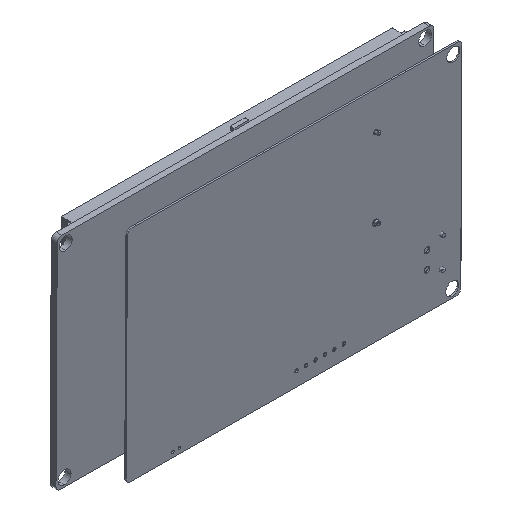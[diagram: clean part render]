
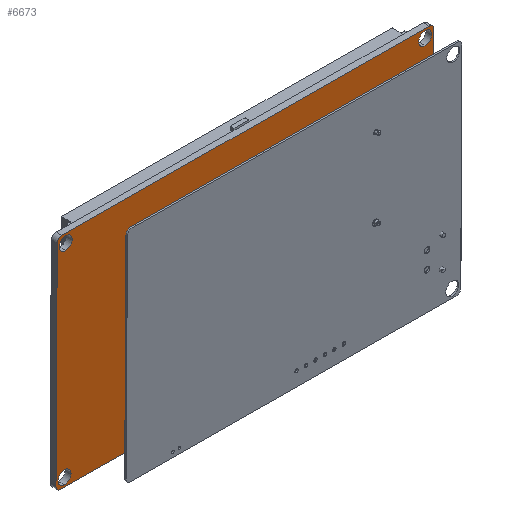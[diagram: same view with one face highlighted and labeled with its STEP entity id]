
A CAD part, isometric view. The second image highlights one B-rep face of the part: STEP entity #6673.
In plain terms, the highlighted planar face has unit normal (0, -1, 0).
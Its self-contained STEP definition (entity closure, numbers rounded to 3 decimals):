
#177 = EDGE_CURVE ( 'NONE', #3740, #25620, #25406, .T. ) ;
#387 = VERTEX_POINT ( 'NONE', #6025 ) ;
#539 = DIRECTION ( 'NONE',  ( 1., 0., 0. ) ) ;
#587 = CIRCLE ( 'NONE', #13420, 1.75 ) ;
#846 = AXIS2_PLACEMENT_3D ( 'NONE', #12586, #22186, #34275 ) ;
#912 = EDGE_CURVE ( 'NONE', #27208, #2366, #38594, .T. ) ;
#2313 = VECTOR ( 'NONE', #539, 1000. ) ;
#2366 = VERTEX_POINT ( 'NONE', #2836 ) ;
#2378 = FACE_BOUND ( 'NONE', #7326, .T. ) ;
#2589 = CARTESIAN_POINT ( 'NONE',  ( 48.35, 0., -28.95 ) ) ;
#2757 = VECTOR ( 'NONE', #18310, 1000. ) ;
#2836 = CARTESIAN_POINT ( 'NONE',  ( 49.38, 0., 29.5 ) ) ;
#3345 = CIRCLE ( 'NONE', #17993, 1.75 ) ;
#3418 = ORIENTED_EDGE ( 'NONE', *, *, #6090, .F. ) ;
#3587 = CARTESIAN_POINT ( 'NONE',  ( -48.35, 0., 28.95 ) ) ;
#3740 = VERTEX_POINT ( 'NONE', #8321 ) ;
#3858 = DIRECTION ( 'NONE',  ( 0., 0., 1. ) ) ;
#4015 = AXIS2_PLACEMENT_3D ( 'NONE', #10816, #34372, #37442 ) ;
#4203 = CARTESIAN_POINT ( 'NONE',  ( -49.38, 0., -29.5 ) ) ;
#4279 = VERTEX_POINT ( 'NONE', #22017 ) ;
#4298 = FACE_BOUND ( 'NONE', #8330, .T. ) ;
#4959 = CARTESIAN_POINT ( 'NONE',  ( 48.35, 0., 27.2 ) ) ;
#5117 = ORIENTED_EDGE ( 'NONE', *, *, #38642, .T. ) ;
#5269 = EDGE_CURVE ( 'NONE', #2366, #4279, #7328, .T. ) ;
#5333 = DIRECTION ( 'NONE',  ( 0., -1., 0. ) ) ;
#6025 = CARTESIAN_POINT ( 'NONE',  ( -48.35, 0., -25.45 ) ) ;
#6090 = EDGE_CURVE ( 'NONE', #19258, #387, #9236, .T. ) ;
#6213 = ORIENTED_EDGE ( 'NONE', *, *, #26890, .T. ) ;
#6673 = ADVANCED_FACE ( 'NONE', ( #17278, #15361, #2378, #28196, #4298 ), #24340, .F. ) ;
#7023 = CARTESIAN_POINT ( 'NONE',  ( -48.35, 0., -27.2 ) ) ;
#7326 = EDGE_LOOP ( 'NONE', ( #8565, #34831 ) ) ;
#7328 = CIRCLE ( 'NONE', #846, 1.27 ) ;
#7694 = LINE ( 'NONE', #25322, #2313 ) ;
#7952 = DIRECTION ( 'NONE',  ( 0., 0., 1. ) ) ;
#8321 = CARTESIAN_POINT ( 'NONE',  ( 48.35, 0., 28.95 ) ) ;
#8330 = EDGE_LOOP ( 'NONE', ( #3418, #9829 ) ) ;
#8565 = ORIENTED_EDGE ( 'NONE', *, *, #10360, .F. ) ;
#8590 = LINE ( 'NONE', #33461, #14807 ) ;
#8820 = DIRECTION ( 'NONE',  ( 0., 1., 0. ) ) ;
#8850 = VERTEX_POINT ( 'NONE', #4203 ) ;
#8868 = VERTEX_POINT ( 'NONE', #19345 ) ;
#9236 = CIRCLE ( 'NONE', #15017, 1.75 ) ;
#9829 = ORIENTED_EDGE ( 'NONE', *, *, #25616, .F. ) ;
#10092 = EDGE_CURVE ( 'NONE', #8850, #19822, #7694, .T. ) ;
#10318 = DIRECTION ( 'NONE',  ( 0., 0., 1. ) ) ;
#10322 = CIRCLE ( 'NONE', #28687, 1.27 ) ;
#10360 = EDGE_CURVE ( 'NONE', #25620, #3740, #18284, .T. ) ;
#10648 = VERTEX_POINT ( 'NONE', #3587 ) ;
#10816 = CARTESIAN_POINT ( 'NONE',  ( 48.35, 0., -27.2 ) ) ;
#10847 = LINE ( 'NONE', #35575, #34168 ) ;
#11132 = EDGE_LOOP ( 'NONE', ( #36311, #5117 ) ) ;
#11409 = VERTEX_POINT ( 'NONE', #37590 ) ;
#12258 = AXIS2_PLACEMENT_3D ( 'NONE', #30324, #18203, #15264 ) ;
#12311 = DIRECTION ( 'NONE',  ( 0., 0., 1. ) ) ;
#12586 = CARTESIAN_POINT ( 'NONE',  ( 49.38, 0., 28.23 ) ) ;
#12683 = DIRECTION ( 'NONE',  ( 0., 1., 0. ) ) ;
#13206 = AXIS2_PLACEMENT_3D ( 'NONE', #29566, #29428, #7952 ) ;
#13243 = CARTESIAN_POINT ( 'NONE',  ( 48.35, 0., -27.2 ) ) ;
#13420 = AXIS2_PLACEMENT_3D ( 'NONE', #17138, #19676, #19807 ) ;
#14385 = EDGE_CURVE ( 'NONE', #19822, #35917, #18759, .T. ) ;
#14807 = VECTOR ( 'NONE', #12311, 1000. ) ;
#15017 = AXIS2_PLACEMENT_3D ( 'NONE', #7023, #28112, #22140 ) ;
#15264 = DIRECTION ( 'NONE',  ( 0., 0., 1. ) ) ;
#15361 = FACE_BOUND ( 'NONE', #11132, .T. ) ;
#15904 = EDGE_CURVE ( 'NONE', #10648, #23073, #32427, .T. ) ;
#15920 = DIRECTION ( 'NONE',  ( 0., 1., 0. ) ) ;
#16053 = EDGE_CURVE ( 'NONE', #11409, #27208, #19531, .T. ) ;
#16485 = ORIENTED_EDGE ( 'NONE', *, *, #912, .F. ) ;
#17138 = CARTESIAN_POINT ( 'NONE',  ( -48.35, 0., 27.2 ) ) ;
#17278 = FACE_OUTER_BOUND ( 'NONE', #39325, .T. ) ;
#17363 = ORIENTED_EDGE ( 'NONE', *, *, #15904, .T. ) ;
#17951 = EDGE_CURVE ( 'NONE', #23073, #10648, #587, .T. ) ;
#17993 = AXIS2_PLACEMENT_3D ( 'NONE', #13243, #15920, #10318 ) ;
#18053 = CARTESIAN_POINT ( 'NONE',  ( 48.35, 0., 25.45 ) ) ;
#18203 = DIRECTION ( 'NONE',  ( 0., -1., 0. ) ) ;
#18284 = CIRCLE ( 'NONE', #22199, 1.75 ) ;
#18310 = DIRECTION ( 'NONE',  ( 1., 0., 0. ) ) ;
#18759 = CIRCLE ( 'NONE', #12258, 1.27 ) ;
#19258 = VERTEX_POINT ( 'NONE', #26872 ) ;
#19323 = CARTESIAN_POINT ( 'NONE',  ( -50.65, 0., -28.23 ) ) ;
#19345 = CARTESIAN_POINT ( 'NONE',  ( 48.35, 0., -25.45 ) ) ;
#19531 = CIRCLE ( 'NONE', #20482, 1.27 ) ;
#19676 = DIRECTION ( 'NONE',  ( 0., 1., 0. ) ) ;
#19807 = DIRECTION ( 'NONE',  ( 0., 0., 1. ) ) ;
#19822 = VERTEX_POINT ( 'NONE', #32144 ) ;
#20059 = CIRCLE ( 'NONE', #4015, 1.75 ) ;
#20482 = AXIS2_PLACEMENT_3D ( 'NONE', #37164, #12683, #30795 ) ;
#21105 = CARTESIAN_POINT ( 'NONE',  ( 0., 0., 0. ) ) ;
#21259 = EDGE_CURVE ( 'NONE', #35598, #11409, #10847, .T. ) ;
#21441 = AXIS2_PLACEMENT_3D ( 'NONE', #26627, #5333, #33340 ) ;
#22017 = CARTESIAN_POINT ( 'NONE',  ( 50.65, 0., 28.23 ) ) ;
#22140 = DIRECTION ( 'NONE',  ( 0., 0., 1. ) ) ;
#22186 = DIRECTION ( 'NONE',  ( 0., 1., 0. ) ) ;
#22199 = AXIS2_PLACEMENT_3D ( 'NONE', #4959, #26246, #26792 ) ;
#22250 = CIRCLE ( 'NONE', #21441, 1.75 ) ;
#22442 = AXIS2_PLACEMENT_3D ( 'NONE', #21105, #30565, #24597 ) ;
#23073 = VERTEX_POINT ( 'NONE', #36815 ) ;
#23113 = EDGE_CURVE ( 'NONE', #26061, #8868, #3345, .T. ) ;
#23653 = ORIENTED_EDGE ( 'NONE', *, *, #16053, .F. ) ;
#24069 = ORIENTED_EDGE ( 'NONE', *, *, #28145, .F. ) ;
#24340 = PLANE ( 'NONE',  #22442 ) ;
#24445 = CARTESIAN_POINT ( 'NONE',  ( 0., 0., 29.5 ) ) ;
#24597 = DIRECTION ( 'NONE',  ( 0., 0., 1. ) ) ;
#25322 = CARTESIAN_POINT ( 'NONE',  ( 0., 0., -29.5 ) ) ;
#25406 = CIRCLE ( 'NONE', #13206, 1.75 ) ;
#25616 = EDGE_CURVE ( 'NONE', #387, #19258, #22250, .T. ) ;
#25620 = VERTEX_POINT ( 'NONE', #18053 ) ;
#26061 = VERTEX_POINT ( 'NONE', #2589 ) ;
#26246 = DIRECTION ( 'NONE',  ( 0., -1., 0. ) ) ;
#26343 = ORIENTED_EDGE ( 'NONE', *, *, #21259, .F. ) ;
#26627 = CARTESIAN_POINT ( 'NONE',  ( -48.35, 0., -27.2 ) ) ;
#26792 = DIRECTION ( 'NONE',  ( 0., 0., 1. ) ) ;
#26872 = CARTESIAN_POINT ( 'NONE',  ( -48.35, 0., -28.95 ) ) ;
#26890 = EDGE_CURVE ( 'NONE', #35917, #4279, #8590, .T. ) ;
#27208 = VERTEX_POINT ( 'NONE', #38109 ) ;
#27502 = ORIENTED_EDGE ( 'NONE', *, *, #17951, .T. ) ;
#28062 = CARTESIAN_POINT ( 'NONE',  ( -49.38, 0., -28.23 ) ) ;
#28112 = DIRECTION ( 'NONE',  ( 0., -1., 0. ) ) ;
#28145 = EDGE_CURVE ( 'NONE', #8850, #35598, #10322, .T. ) ;
#28196 = FACE_BOUND ( 'NONE', #32669, .T. ) ;
#28687 = AXIS2_PLACEMENT_3D ( 'NONE', #28062, #37505, #3858 ) ;
#29422 = AXIS2_PLACEMENT_3D ( 'NONE', #33191, #8820, #33588 ) ;
#29428 = DIRECTION ( 'NONE',  ( 0., -1., 0. ) ) ;
#29566 = CARTESIAN_POINT ( 'NONE',  ( 48.35, 0., 27.2 ) ) ;
#30086 = CARTESIAN_POINT ( 'NONE',  ( 50.65, 0., -28.23 ) ) ;
#30324 = CARTESIAN_POINT ( 'NONE',  ( 49.38, 0., -28.23 ) ) ;
#30551 = ORIENTED_EDGE ( 'NONE', *, *, #10092, .T. ) ;
#30565 = DIRECTION ( 'NONE',  ( 0., 1., 0. ) ) ;
#30795 = DIRECTION ( 'NONE',  ( 0., 0., 1. ) ) ;
#32144 = CARTESIAN_POINT ( 'NONE',  ( 49.38, 0., -29.5 ) ) ;
#32427 = CIRCLE ( 'NONE', #29422, 1.75 ) ;
#32669 = EDGE_LOOP ( 'NONE', ( #27502, #17363 ) ) ;
#33191 = CARTESIAN_POINT ( 'NONE',  ( -48.35, 0., 27.2 ) ) ;
#33340 = DIRECTION ( 'NONE',  ( 0., 0., 1. ) ) ;
#33461 = CARTESIAN_POINT ( 'NONE',  ( 50.65, 0., 0. ) ) ;
#33588 = DIRECTION ( 'NONE',  ( 0., 0., 1. ) ) ;
#34168 = VECTOR ( 'NONE', #35833, 1000. ) ;
#34200 = ORIENTED_EDGE ( 'NONE', *, *, #14385, .T. ) ;
#34275 = DIRECTION ( 'NONE',  ( 0., 0., 1. ) ) ;
#34372 = DIRECTION ( 'NONE',  ( 0., 1., 0. ) ) ;
#34831 = ORIENTED_EDGE ( 'NONE', *, *, #177, .F. ) ;
#35575 = CARTESIAN_POINT ( 'NONE',  ( -50.65, 0., 0. ) ) ;
#35598 = VERTEX_POINT ( 'NONE', #19323 ) ;
#35833 = DIRECTION ( 'NONE',  ( 0., 0., 1. ) ) ;
#35912 = ORIENTED_EDGE ( 'NONE', *, *, #5269, .F. ) ;
#35917 = VERTEX_POINT ( 'NONE', #30086 ) ;
#36311 = ORIENTED_EDGE ( 'NONE', *, *, #23113, .T. ) ;
#36815 = CARTESIAN_POINT ( 'NONE',  ( -48.35, 0., 25.45 ) ) ;
#37164 = CARTESIAN_POINT ( 'NONE',  ( -49.38, 0., 28.23 ) ) ;
#37442 = DIRECTION ( 'NONE',  ( 0., 0., 1. ) ) ;
#37505 = DIRECTION ( 'NONE',  ( 0., 1., 0. ) ) ;
#37590 = CARTESIAN_POINT ( 'NONE',  ( -50.65, 0., 28.23 ) ) ;
#38109 = CARTESIAN_POINT ( 'NONE',  ( -49.38, 0., 29.5 ) ) ;
#38594 = LINE ( 'NONE', #24445, #2757 ) ;
#38642 = EDGE_CURVE ( 'NONE', #8868, #26061, #20059, .T. ) ;
#39325 = EDGE_LOOP ( 'NONE', ( #34200, #6213, #35912, #16485, #23653, #26343, #24069, #30551 ) ) ;
